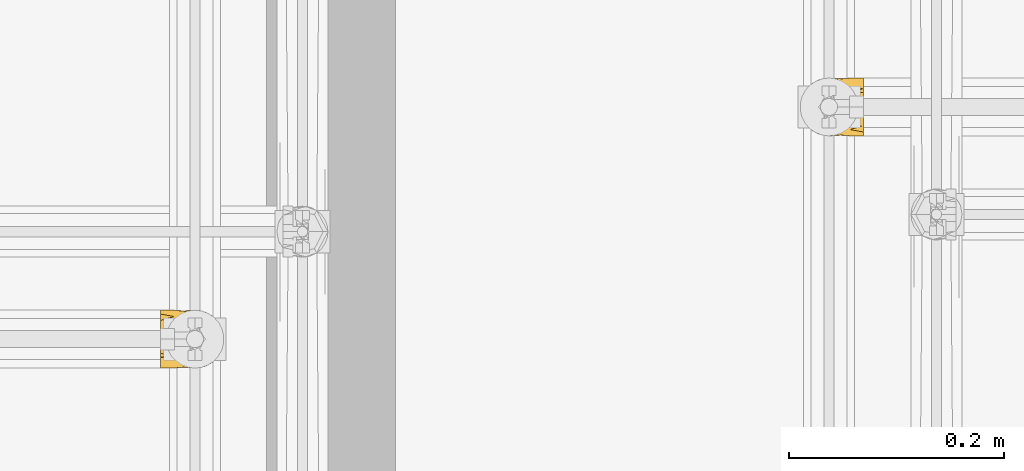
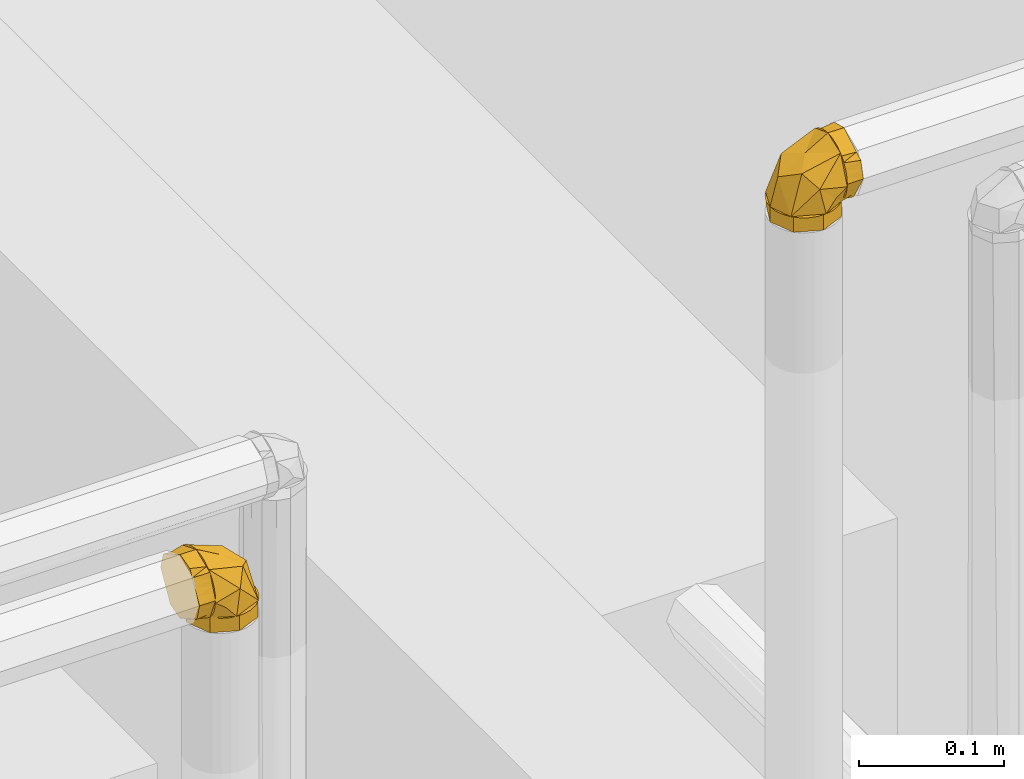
# One storey, part 328 of 652: 2 coverings.
"""IFC2X3 building model written with IfcOpenShell, lengths in millimetres."""

from ifc_helpers import new_model, entity, si_unit, converted_unit, direction, frame, origin, place, context, subcontext, project, spatial, face_set, surface_model, material, type_object, element, save


model = new_model("IFC2X3")

# Units and contexts
model_context = context("Model", 3, precision=0.01, world=frame((0.0, 0.0, 308426.39999999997)), true_north=direction((6.123233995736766e-17, 1.0)))
plan_context = context("Plan", 3, precision=0.01, world=frame((0.0, 0.0, 308426.39999999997)), true_north=direction((6.123233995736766e-17, 1.0)))
body_context = subcontext(model_context, "Body", "Model", "MODEL_VIEW")
ifc_project = project(units=[si_unit("LENGTHUNIT", "METRE", prefix="MILLI"), si_unit("AREAUNIT", "SQUARE_METRE"), si_unit("VOLUMEUNIT", "CUBIC_METRE"), converted_unit("PLANEANGLEUNIT", "DEGREE", entity("IfcPlaneAngleMeasure", 0.017453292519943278), si_unit("PLANEANGLEUNIT", "RADIAN"), dimensions=[0, 0, 0, 0, 0, 0, 0])], contexts=[model_context, plan_context])

# Site, building, storey
site_placement = place(None, origin())
site = spatial("IfcSite", under=ifc_project, at=site_placement, Name="Default", CompositionType="ELEMENT")
building_placement = place(site_placement, origin())
building = spatial("IfcBuilding", under=site, at=building_placement, CompositionType="ELEMENT")
storey_placement = place(building_placement, frame((0.0, 0.0, 1730.6999999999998)))
storey = spatial("IfcBuildingStorey", under=building, at=storey_placement, Name="EG_Produktion_FFB", CompositionType="ELEMENT", Elevation=1730.6999999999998)

# Coverings
ifc_material = material(Name="Dämmung - Armaflex-Schlauch")
covering_type = type_object("IfcCoveringType", Name="Rohrdämmung außen:Armaflex-Schlauch", PredefinedType="INSULATION")
covering_1_placement = place(storey_placement, frame((26716.26718915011, 55483.341818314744, 3328.532772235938)))
element("IfcCovering", 1, at=covering_1_placement, inside=storey, type_object=covering_type, material=ifc_material, Name="Rohrdämmung außen:Armaflex-Schlauch", ObjectType="Rohrdämmung außen:Armaflex-Schlauch", PredefinedType="INSULATION", context=body_context, shape_type="SurfaceModel", body=[
    surface_model("IfcFaceBasedSurfaceModel", [(12.766249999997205, 47.409122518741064, -47.750272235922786), (17.724287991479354, 51.38658262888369, -47.75027223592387), (23.476279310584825, 54.0915642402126, -47.75027223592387), (29.701958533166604, 55.37345654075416, -47.75027223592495), (36.05468574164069, 55.16088498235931, -47.75027223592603), (42.180747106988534, 53.465685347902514, -47.75027223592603), (47.739049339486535, 50.38224474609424, -47.75027223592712), (52.420111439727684, 46.08224622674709, -47.75027223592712), (55.96329630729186, 40.8051096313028, -47.7502722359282), (58.17132276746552, 34.844660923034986, -47.7502722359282), (58.92124999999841, 28.532772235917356, -47.7502722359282), (58.17132276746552, 22.220883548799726, -47.7502722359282), (55.96329630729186, 16.26043484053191, -47.7502722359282), (52.420111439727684, 10.983298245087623, -47.75027223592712), (47.739049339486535, 6.683299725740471, -47.75027223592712), (42.180747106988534, 3.599859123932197, -47.75027223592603), (36.05468574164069, 1.904659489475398, -47.75027223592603), (29.701958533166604, 1.6920879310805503, -47.75027223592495), (23.476279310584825, 2.973980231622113, -47.75027223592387), (17.724287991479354, 5.678961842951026, -47.75027223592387), (12.766249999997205, 9.65642195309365, -47.750272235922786), (12.766249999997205, 5.678961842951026, -42.79223424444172), (12.766249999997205, 2.973980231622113, -37.04024292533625), (12.766249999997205, 1.6920879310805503, -30.814563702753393), (12.766250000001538, 1.904659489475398, -24.46183649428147), (12.766250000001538, 3.599859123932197, -18.33577512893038), (12.766250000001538, 6.683299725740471, -12.777472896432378), (12.766250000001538, 10.983298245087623, -8.096410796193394), (12.766250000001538, 16.26043484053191, -4.553225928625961), (12.766250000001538, 22.220883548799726, -2.3451994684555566), (12.766250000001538, 28.532772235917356, -1.5952722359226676), (12.766250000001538, 34.844660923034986, -2.3451994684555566), (12.766250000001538, 40.8051096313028, -4.553225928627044), (12.766250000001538, 46.08224622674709, -8.096410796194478), (12.766250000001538, 50.38224474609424, -12.777472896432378), (12.766250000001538, 53.465685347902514, -18.33577512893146), (12.766250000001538, 55.16088498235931, -24.46183649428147), (12.766249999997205, 55.37345654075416, -30.814563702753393), (12.766249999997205, 54.0915642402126, -37.04024292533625), (12.766249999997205, 51.38658262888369, -42.7922342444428), (21.447282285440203, 54.789126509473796, -37.807297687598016), (52.7383955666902, 28.534915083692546, -24.672634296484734), (33.565147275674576, 53.463626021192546, -26.950983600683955), (41.060038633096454, 50.72890922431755, -47.75029542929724), (31.030418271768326, 28.534915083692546, -12.139678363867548), (41.84138628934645, 42.780557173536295, -17.332384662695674), (12.766416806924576, 50.72890922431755, -19.455510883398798), (41.84138628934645, 14.284622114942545, -17.332384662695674), (21.447282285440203, 2.276052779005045, -37.807297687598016), (33.565147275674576, 3.601553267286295, -26.950983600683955), (12.766416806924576, 6.336270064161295, -19.455510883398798), (41.060038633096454, 6.336270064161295, -47.75029542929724), (58.92125000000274, 28.532772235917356, -60.51652223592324), (56.94879722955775, 23.770850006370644, -60.51652223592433), (54.97634445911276, 19.008927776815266, -60.51652223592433), (53.00389168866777, 14.247005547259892, -60.51652223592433), (51.031438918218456, 9.485083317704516, -60.51652223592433), (46.26951668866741, 7.512630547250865, -60.51652223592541), (41.507594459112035, 5.54017777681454, -60.51652223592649), (36.74567222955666, 3.567725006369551, -60.51652223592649), (31.983750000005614, 1.5952722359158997, -60.516522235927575), (27.22182777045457, 3.567725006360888, -60.516522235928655), (22.459905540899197, 5.54017777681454, -60.516522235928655), (17.69798331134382, 7.512630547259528, -60.51652223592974), (12.936061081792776, 9.485083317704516, -60.51652223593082), (10.963608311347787, 14.247005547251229, -60.51652223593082), (8.991155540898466, 19.008927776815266, -60.51652223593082), (7.018702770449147, 23.770850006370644, -60.5165222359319), (5.046250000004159, 28.532772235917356, -60.5165222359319), (7.018702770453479, 33.29469446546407, -60.51652223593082), (8.991155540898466, 38.05661669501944, -60.51652223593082), (10.963608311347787, 42.81853892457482, -60.51652223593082), (12.936061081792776, 47.5804611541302, -60.51652223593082), (17.69798331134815, 49.552913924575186, -60.51652223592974), (22.459905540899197, 51.525366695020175, -60.516522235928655), (27.22182777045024, 53.497819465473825, -60.516522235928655), (31.983750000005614, 55.47027223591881, -60.516522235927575), (36.74567222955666, 53.497819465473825, -60.51652223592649), (41.507594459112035, 51.525366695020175, -60.51652223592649), (46.26951668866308, 49.552913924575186, -60.51652223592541), (51.031438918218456, 47.5804611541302, -60.51652223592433), (53.00389168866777, 42.81853892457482, -60.51652223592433), (54.97634445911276, 38.05661669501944, -60.51652223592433), (56.94879722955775, 33.29469446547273, -60.51652223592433), (58.92125000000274, 28.532772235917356, -47.75027223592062), (56.94879722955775, 33.29469446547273, -47.75027223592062), (54.97634445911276, 38.05661669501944, -47.75027223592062), (53.00389168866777, 42.81853892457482, -47.750272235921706), (51.031438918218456, 47.5804611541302, -47.750272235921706), (45.26304951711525, 49.96980627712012, -47.750272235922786), (39.49466011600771, 52.35915140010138, -47.75027223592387), (31.983750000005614, 55.47027223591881, -47.75027223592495), (27.22182777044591, 53.49781946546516, -47.75027223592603), (22.459905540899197, 51.525366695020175, -47.75027223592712), (17.69798331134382, 49.552913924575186, -47.7502722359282), (12.936061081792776, 47.5804611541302, -47.7502722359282), (10.546715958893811, 41.81207175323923, -47.7502722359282), (8.157370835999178, 36.04368235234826, -47.75027223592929), (5.046250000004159, 28.532772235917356, -47.75027223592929), (7.018702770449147, 23.770850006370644, -47.75027223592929), (8.991155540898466, 19.008927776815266, -47.75027223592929), (10.963608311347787, 14.247005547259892, -47.75027223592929), (12.936061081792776, 9.485083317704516, -47.7502722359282), (18.704450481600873, 7.095738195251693, -47.75027223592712), (24.472839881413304, 4.706393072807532, -47.75027223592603), (31.983750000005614, 1.5952722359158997, -47.75027223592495), (36.74567222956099, 3.567725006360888, -47.75027223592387), (41.507594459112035, 5.54017777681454, -47.750272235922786), (46.26951668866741, 7.512630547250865, -47.750272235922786), (51.031438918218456, 9.485083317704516, -47.750272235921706), (53.420784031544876, 15.253472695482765, -47.75027223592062), (55.81012914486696, 21.021862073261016, -47.75027223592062), (0.0, 28.532772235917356, -1.5952722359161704), (0.0, 34.36491206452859, -4.962459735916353), (0.0, 40.197051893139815, -8.329647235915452), (0.0, 46.02919172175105, -11.696834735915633), (0.0, 51.86133155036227, -15.064022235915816), (0.0, 53.66580189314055, -21.79839723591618), (0.0, 55.47027223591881, -28.532772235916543), (0.0, 52.10308473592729, -34.36491206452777), (0.0, 48.73589723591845, -40.197051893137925), (0.0, 45.368709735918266, -46.02919172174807), (0.0, 42.00152223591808, -51.861331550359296), (0.0, 35.26714723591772, -53.66580189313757), (0.0, 28.532772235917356, -55.470272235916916), (0.0, 22.700632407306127, -52.10308473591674), (0.0, 16.868492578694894, -48.73589723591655), (0.0, 11.036352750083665, -45.36870973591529), (0.0, 5.204212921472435, -42.00152223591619), (0.0, 3.3997425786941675, -35.26714723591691), (0.0, 1.5952722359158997, -28.532772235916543), (0.0, 4.962459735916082, -22.700632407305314), (0.0, 8.329647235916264, -16.868492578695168), (0.0, 11.696834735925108, -11.036352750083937), (0.0, 15.064022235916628, -5.204212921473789), (0.0, 21.79839723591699, -3.399742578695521), (12.766249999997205, 28.532772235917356, -1.5952722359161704), (12.766249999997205, 23.77085000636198, -3.5677250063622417), (12.766249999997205, 19.008927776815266, -5.540177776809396), (12.766249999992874, 14.247005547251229, -7.51263054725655), (12.766249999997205, 9.485083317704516, -9.485083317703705), (12.766249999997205, 7.512630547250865, -14.247005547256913), (12.766249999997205, 5.54017777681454, -19.008927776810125), (12.766249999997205, 3.567725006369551, -23.770850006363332), (12.766249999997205, 1.5952722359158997, -28.532772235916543), (12.766249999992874, 3.567725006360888, -33.29469446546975), (12.766249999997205, 5.54017777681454, -38.05661669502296), (12.766249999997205, 7.512630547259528, -42.818538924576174), (12.766249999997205, 9.485083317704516, -47.58046115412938), (12.766249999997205, 14.247005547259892, -49.552913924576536), (12.766249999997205, 19.008927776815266, -51.52536669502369), (12.766249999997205, 23.770850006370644, -53.49781946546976), (12.766249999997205, 28.532772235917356, -55.470272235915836), (12.766249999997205, 33.29469446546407, -53.49781946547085), (12.766249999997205, 38.05661669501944, -51.52536669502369), (12.766250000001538, 42.818538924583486, -49.552913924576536), (12.766249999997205, 47.5804611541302, -47.58046115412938), (12.766249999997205, 49.552913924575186, -42.818538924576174), (12.766249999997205, 51.525366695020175, -38.05661669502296), (12.766249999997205, 53.497819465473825, -33.29469446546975), (12.766249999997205, 55.47027223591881, -28.532772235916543), (12.766249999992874, 53.49781946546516, -23.770850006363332), (12.766249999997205, 51.525366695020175, -19.008927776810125), (12.766249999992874, 49.552913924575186, -14.247005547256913), (12.766249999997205, 47.5804611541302, -9.485083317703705), (12.766249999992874, 42.818538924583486, -7.51263054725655), (12.766249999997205, 38.05661669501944, -5.540177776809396), (12.766249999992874, 33.29469446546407, -3.567725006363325)], [face_set([[[0, 1, 2, 3, 4, 5, 6, 7, 8, 9, 10, 11, 12, 13, 14, 15, 16, 17, 18, 19]], [[20, 21, 22, 23, 24, 25, 26, 27, 28, 29, 30, 31, 32, 33, 34, 35, 36, 37, 38, 39]], [[0, 40, 3]], [[10, 7, 41]], [[37, 42, 40]], [[42, 7, 43]], [[37, 40, 0]], [[3, 40, 42]], [[44, 41, 45]], [[7, 45, 41]], [[33, 30, 44]], [[44, 45, 33]], [[42, 33, 45]], [[42, 37, 46, 33]], [[7, 42, 45]], [[43, 3, 42]], [[13, 10, 41]], [[27, 47, 44]], [[44, 30, 27]], [[48, 49, 23]], [[49, 27, 50, 23]], [[17, 49, 48]], [[44, 47, 41]], [[20, 48, 23]], [[47, 49, 13]], [[17, 48, 20]], [[41, 47, 13]], [[49, 17, 51]], [[27, 49, 47]], [[51, 13, 49]]]), face_set([[[52, 53, 54, 55, 56, 57, 58, 59, 60, 61, 62, 63, 64, 65, 66, 67, 68, 69, 70, 71, 72, 73, 74, 75, 76, 77, 78, 79, 80, 81, 82, 83]], [[84, 85, 86, 87, 88, 89, 90, 91, 92, 93, 94, 95, 96, 97, 98, 99, 100, 101, 102, 103, 104, 105, 106, 107, 108, 109, 110, 111]], [[111, 110, 109, 56, 55, 54, 53, 52, 84]], [[56, 109, 108, 107, 106, 105, 60, 59, 58, 57]], [[104, 103, 102, 64, 63, 62, 61, 60, 105]], [[64, 102, 101, 100, 99, 98, 68, 67, 66, 65]], [[97, 96, 95, 72, 71, 70, 69, 68, 98]], [[72, 95, 94, 93, 92, 91, 76, 75, 74, 73]], [[90, 89, 88, 80, 79, 78, 77, 76, 91]], [[80, 88, 87, 86, 85, 84, 52, 83, 82, 81]]]), face_set([[[112, 113, 114, 115, 116, 117, 118, 119, 120, 121, 122, 123, 124, 125, 126, 127, 128, 129, 130, 131, 132, 133, 134, 135]], [[136, 137, 138, 139, 140, 141, 142, 143, 144, 145, 146, 147, 148, 149, 150, 151, 152, 153, 154, 155, 156, 157, 158, 159, 160, 161, 162, 163, 164, 165, 166, 167]], [[155, 121, 156]], [[118, 159, 119]], [[159, 158, 119]], [[123, 154, 153]], [[153, 152, 124]], [[121, 155, 122]], [[120, 158, 157]], [[118, 160, 159]], [[158, 120, 119]], [[124, 123, 153]], [[157, 156, 121]], [[155, 154, 122]], [[123, 122, 154]], [[120, 157, 121]], [[163, 115, 164]], [[112, 167, 113]], [[167, 166, 113]], [[117, 162, 161]], [[161, 160, 118]], [[115, 163, 116]], [[114, 166, 165]], [[112, 136, 167]], [[166, 114, 113]], [[118, 117, 161]], [[165, 164, 115]], [[163, 162, 116]], [[117, 116, 162]], [[114, 165, 115]], [[139, 133, 140]], [[130, 143, 131]], [[143, 142, 131]], [[135, 138, 137]], [[137, 136, 112]], [[133, 139, 134]], [[132, 142, 141]], [[130, 144, 143]], [[142, 132, 131]], [[112, 135, 137]], [[141, 140, 133]], [[139, 138, 134]], [[135, 134, 138]], [[132, 141, 133]], [[147, 127, 148]], [[124, 151, 125]], [[151, 150, 125]], [[129, 146, 145]], [[145, 144, 130]], [[127, 147, 128]], [[126, 150, 149]], [[124, 152, 151]], [[150, 126, 125]], [[130, 129, 145]], [[149, 148, 127]], [[147, 146, 128]], [[129, 128, 146]], [[126, 149, 127]]])]),
])
covering_2_placement = place(storey_placement, frame((27309.718166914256, 55699.373068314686, 3268.016249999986)))
element("IfcCovering", 2, at=covering_2_placement, inside=storey, type_object=covering_type, material=ifc_material, Name="Rohrdämmung außen:Armaflex-Schlauch", ObjectType="Rohrdämmung außen:Armaflex-Schlauch", PredefinedType="INSULATION", context=body_context, shape_type="SurfaceModel", body=[
    surface_model("IfcFaceBasedSurfaceModel", [(47.75027223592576, 9.65642195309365, 12.766250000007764), (42.79223424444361, 5.678961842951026, 12.76625000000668), (37.04024292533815, 2.973980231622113, 12.76625000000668), (30.81456370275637, 1.6920879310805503, 12.766250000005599), (24.461836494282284, 1.904659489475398, 12.766250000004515), (18.33577512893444, 3.599859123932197, 12.766250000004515), (12.77747289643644, 6.683299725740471, 12.766250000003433), (8.09641079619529, 10.983298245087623, 12.766250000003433), (4.553225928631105, 16.26043484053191, 12.76625000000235), (2.3451994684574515, 22.220883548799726, 12.76625000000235), (1.5952722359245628, 28.532772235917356, 12.76625000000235), (2.3451994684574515, 34.844660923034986, 12.76625000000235), (4.553225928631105, 40.8051096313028, 12.76625000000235), (8.09641079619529, 46.08224622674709, 12.766250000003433), (12.77747289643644, 50.38224474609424, 12.766250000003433), (18.33577512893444, 53.465685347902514, 12.766250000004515), (24.461836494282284, 55.16088498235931, 12.766250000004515), (30.81456370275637, 55.37345654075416, 12.766250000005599), (37.04024292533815, 54.0915642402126, 12.76625000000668), (42.79223424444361, 51.38658262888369, 12.76625000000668), (47.75027223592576, 47.409122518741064, 12.766250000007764), (47.75027223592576, 5.678961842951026, 17.72428799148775), (47.75027223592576, 2.973980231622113, 23.4762793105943), (47.75027223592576, 1.6920879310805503, 29.70195853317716), (47.750272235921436, 1.904659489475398, 36.05468574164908), (47.750272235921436, 3.599859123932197, 42.18074710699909), (47.750272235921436, 6.683299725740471, 47.73904933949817), (47.750272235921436, 10.983298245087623, 52.420111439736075), (47.750272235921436, 16.26043484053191, 55.96329630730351), (47.750272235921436, 22.220883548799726, 58.171322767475), (47.750272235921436, 28.532772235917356, 58.92125000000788), (47.750272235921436, 34.844660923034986, 58.171322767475), (47.750272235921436, 40.8051096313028, 55.96329630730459), (47.750272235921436, 46.08224622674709, 52.420111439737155), (47.750272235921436, 50.38224474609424, 47.73904933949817), (47.750272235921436, 53.465685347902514, 42.18074710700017), (47.750272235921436, 55.16088498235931, 36.05468574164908), (47.75027223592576, 55.37345654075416, 29.70195853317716), (47.75027223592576, 54.0915642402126, 23.4762793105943), (47.75027223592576, 51.38658262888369, 17.72428799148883), (39.070633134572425, 2.2781279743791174, 22.709224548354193), (7.779519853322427, 28.532339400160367, 35.84388793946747), (26.950442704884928, 3.5989775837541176, 33.565538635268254), (19.455551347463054, 6.338345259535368, 12.766226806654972), (29.4874971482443, 28.532339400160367, 48.37684387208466), (18.67420369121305, 14.286697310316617, 43.184137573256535), (47.74917317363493, 6.338345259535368, 41.061011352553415), (18.67420369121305, 42.777981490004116, 43.184137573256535), (39.070633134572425, 54.79120170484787, 22.709224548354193), (26.950442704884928, 53.46570121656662, 33.565538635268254), (47.74917317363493, 50.72633354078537, 41.061011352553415), (19.455551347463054, 50.72633354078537, 12.766226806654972), (1.5952722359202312, 28.532772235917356, 0.0), (3.567725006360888, 33.29469446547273, 0.0), (5.540177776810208, 38.05661669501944, 0.0), (7.512630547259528, 42.81853892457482, 0.0), (9.485083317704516, 47.5804611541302, 0.0), (14.247005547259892, 49.552913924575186, 0.0), (19.008927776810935, 51.525366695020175, 0.0), (23.77085000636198, 53.497819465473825, 0.0), (28.532772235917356, 55.47027223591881, 0.0), (33.2946944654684, 53.49781946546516, 0.0), (38.05661669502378, 51.525366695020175, 0.0), (42.81853892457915, 49.552913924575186, 0.0), (47.5804611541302, 47.5804611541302, 0.0), (49.552913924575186, 42.81853892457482, 0.0), (51.5253666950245, 38.05661669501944, 0.0), (53.497819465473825, 33.29469446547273, 0.0), (55.47027223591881, 28.532772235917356, 0.0), (53.49781946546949, 23.77085000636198, 0.0), (51.5253666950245, 19.008927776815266, 0.0), (49.552913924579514, 14.247005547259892, 0.0), (47.5804611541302, 9.485083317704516, 0.0), (42.81853892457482, 7.512630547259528, 0.0), (38.05661669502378, 5.54017777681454, 0.0), (33.29469446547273, 3.567725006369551, 0.0), (28.532772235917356, 1.5952722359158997, 0.0), (23.77085000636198, 3.567725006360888, 0.0), (19.008927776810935, 5.54017777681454, 0.0), (14.24700554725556, 7.512630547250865, 0.0), (9.485083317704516, 9.485083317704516, 0.0), (7.512630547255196, 14.247005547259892, 0.0), (5.540177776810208, 19.008927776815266, 0.0), (3.567725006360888, 23.770850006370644, 0.0), (1.5952722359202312, 28.532772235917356, 12.76625000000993), (3.567725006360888, 23.77085000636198, 12.76625000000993), (5.540177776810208, 19.008927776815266, 12.76625000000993), (7.512630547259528, 14.247005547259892, 12.766250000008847), (9.485083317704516, 9.485083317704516, 12.766250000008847), (15.253472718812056, 7.095738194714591, 12.766250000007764), (21.02186211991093, 4.706393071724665, 12.76625000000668), (28.532772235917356, 1.5952722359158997, 12.766250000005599), (33.29469446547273, 3.567725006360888, 12.766250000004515), (38.056616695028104, 5.54017777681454, 12.766250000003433), (42.81853892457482, 7.512630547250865, 12.76625000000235), (47.5804611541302, 9.485083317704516, 12.76625000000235), (49.96980627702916, 15.253472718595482, 12.76625000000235), (52.35915139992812, 21.021862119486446, 12.766250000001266), (55.47027223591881, 28.532772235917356, 12.766250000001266), (53.497819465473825, 33.29469446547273, 12.766250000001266), (51.5253666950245, 38.05661669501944, 12.766250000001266), (49.552913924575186, 42.81853892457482, 12.766250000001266), (47.5804611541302, 47.5804611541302, 12.76625000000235), (41.8120717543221, 49.96980627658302, 12.766250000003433), (36.043682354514, 52.359151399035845, 12.766250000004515), (28.532772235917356, 55.47027223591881, 12.766250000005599), (23.77085000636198, 53.497819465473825, 12.76625000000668), (19.008927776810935, 51.525366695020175, 12.766250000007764), (14.247005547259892, 49.552913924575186, 12.766250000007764), (9.485083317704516, 47.5804611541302, 12.766250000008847), (7.0957382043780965, 41.81207177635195, 12.76625000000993), (4.706393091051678, 36.0436823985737, 12.76625000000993), (60.51652223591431, 28.532772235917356, 58.92125000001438), (60.51652223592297, 22.700632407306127, 55.5540625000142), (60.51652223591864, 16.868492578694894, 52.1868750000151), (60.51652223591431, 11.036352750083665, 48.819687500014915), (60.51652223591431, 5.204212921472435, 45.45250000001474), (60.51652223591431, 3.3997425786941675, 38.718125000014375), (60.51652223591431, 1.5952722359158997, 31.98375000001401), (60.51652223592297, 4.962459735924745, 26.151610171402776), (60.51652223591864, 8.329647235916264, 20.31947034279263), (60.51652223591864, 11.696834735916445, 14.487330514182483), (60.51652223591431, 15.064022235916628, 8.655190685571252), (60.51652223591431, 21.79839723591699, 6.850720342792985), (60.51652223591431, 28.532772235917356, 5.046250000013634), (60.51652223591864, 34.36491206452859, 8.413437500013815), (60.51652223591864, 40.197051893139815, 11.780625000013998), (60.51652223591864, 46.02919172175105, 15.147812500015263), (60.51652223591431, 51.86133155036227, 18.51500000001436), (60.51652223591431, 53.66580189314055, 25.249375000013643), (60.51652223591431, 55.47027223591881, 31.98375000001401), (60.51652223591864, 52.10308473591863, 37.81588982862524), (60.51652223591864, 48.73589723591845, 43.648029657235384), (60.51652223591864, 45.36870973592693, 49.480169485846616), (60.51652223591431, 42.00152223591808, 55.31230931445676), (60.51652223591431, 35.26714723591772, 57.11677965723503), (47.75027223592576, 28.532772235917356, 58.92125000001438), (47.75027223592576, 33.29469446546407, 56.94879722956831), (47.75027223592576, 38.05661669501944, 54.97634445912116), (47.75027223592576, 42.81853892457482, 53.003891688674), (47.75027223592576, 47.5804611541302, 51.03143891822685), (47.75027223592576, 49.552913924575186, 46.26951668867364), (47.75027223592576, 51.525366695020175, 41.507594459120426), (47.75027223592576, 53.497819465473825, 36.74567222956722), (47.75027223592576, 55.47027223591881, 31.98375000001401), (47.75027223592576, 53.49781946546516, 27.2218277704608), (47.75027223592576, 51.525366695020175, 22.459905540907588), (47.75027223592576, 49.55291392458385, 17.697983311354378), (47.75027223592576, 47.5804611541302, 12.936061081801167), (47.75027223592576, 42.81853892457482, 10.963608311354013), (47.75027223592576, 38.05661669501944, 8.99115554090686), (47.75027223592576, 33.29469446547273, 7.018702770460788), (47.75027223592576, 28.532772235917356, 5.046250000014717), (47.75027223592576, 23.77085000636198, 7.018702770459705), (47.75027223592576, 19.008927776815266, 8.99115554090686), (47.75027223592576, 14.247005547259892, 10.963608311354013), (47.75027223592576, 9.485083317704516, 12.936061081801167), (47.75027223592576, 7.512630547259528, 17.697983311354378), (47.75027223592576, 5.54017777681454, 22.459905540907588), (47.7502722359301, 3.567725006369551, 27.2218277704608), (47.75027223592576, 1.5952722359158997, 31.98375000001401), (47.75027223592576, 3.567725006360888, 36.74567222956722), (47.75027223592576, 5.54017777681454, 41.507594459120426), (47.75027223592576, 7.512630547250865, 46.26951668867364), (47.75027223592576, 9.485083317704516, 51.03143891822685), (47.75027223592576, 14.247005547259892, 53.003891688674), (47.75027223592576, 19.008927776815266, 54.97634445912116), (47.75027223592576, 23.770850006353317, 56.94879722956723)], [face_set([[[0, 1, 2, 3, 4, 5, 6, 7, 8, 9, 10, 11, 12, 13, 14, 15, 16, 17, 18, 19]], [[20, 21, 22, 23, 24, 25, 26, 27, 28, 29, 30, 31, 32, 33, 34, 35, 36, 37, 38, 39]], [[0, 40, 3]], [[10, 7, 41]], [[23, 42, 40]], [[42, 7, 43, 3]], [[23, 40, 0]], [[3, 40, 42]], [[44, 41, 45]], [[7, 45, 41]], [[27, 30, 44]], [[44, 45, 27]], [[42, 27, 45]], [[42, 23, 46, 27]], [[7, 42, 45]], [[13, 10, 41]], [[33, 47, 44]], [[44, 30, 33]], [[48, 49, 37]], [[49, 33, 50, 37]], [[17, 49, 48]], [[44, 47, 41]], [[20, 48, 37]], [[47, 49, 13]], [[17, 48, 20]], [[41, 47, 13]], [[49, 17, 51, 13]], [[33, 49, 47]]]), face_set([[[52, 53, 54, 55, 56, 57, 58, 59, 60, 61, 62, 63, 64, 65, 66, 67, 68, 69, 70, 71, 72, 73, 74, 75, 76, 77, 78, 79, 80, 81, 82, 83]], [[84, 85, 86, 87, 88, 89, 90, 91, 92, 93, 94, 95, 96, 97, 98, 99, 100, 101, 102, 103, 104, 105, 106, 107, 108, 109, 110, 111]], [[111, 110, 109, 56, 55, 54, 53, 52, 84]], [[56, 109, 108, 107, 106, 105, 60, 59, 58, 57]], [[104, 103, 102, 64, 63, 62, 61, 60, 105]], [[64, 102, 101, 100, 99, 98, 68, 67, 66, 65]], [[97, 96, 95, 72, 71, 70, 69, 68, 98]], [[72, 95, 94, 93, 92, 91, 76, 75, 74, 73]], [[90, 89, 88, 80, 79, 78, 77, 76, 91]], [[80, 88, 87, 86, 85, 84, 52, 83, 82, 81]]]), face_set([[[112, 113, 114, 115, 116, 117, 118, 119, 120, 121, 122, 123, 124, 125, 126, 127, 128, 129, 130, 131, 132, 133, 134, 135]], [[136, 137, 138, 139, 140, 141, 142, 143, 144, 145, 146, 147, 148, 149, 150, 151, 152, 153, 154, 155, 156, 157, 158, 159, 160, 161, 162, 163, 164, 165, 166, 167]], [[155, 121, 156]], [[118, 159, 119]], [[159, 158, 119]], [[123, 154, 153]], [[153, 152, 124]], [[121, 155, 122]], [[120, 158, 157]], [[118, 160, 159]], [[158, 120, 119]], [[124, 123, 153]], [[157, 156, 121]], [[155, 154, 122]], [[123, 122, 154]], [[120, 157, 121]], [[163, 115, 164]], [[112, 167, 113]], [[167, 166, 113]], [[117, 162, 161]], [[161, 160, 118]], [[115, 163, 116]], [[114, 166, 165]], [[112, 136, 167]], [[166, 114, 113]], [[118, 117, 161]], [[165, 164, 115]], [[163, 162, 116]], [[117, 116, 162]], [[114, 165, 115]], [[139, 133, 140]], [[130, 143, 131]], [[143, 142, 131]], [[135, 138, 137]], [[137, 136, 112]], [[133, 139, 134]], [[132, 142, 141]], [[130, 144, 143]], [[142, 132, 131]], [[112, 135, 137]], [[141, 140, 133]], [[139, 138, 134]], [[135, 134, 138]], [[132, 141, 133]], [[147, 127, 148]], [[124, 151, 125]], [[151, 150, 125]], [[129, 146, 145]], [[145, 144, 130]], [[127, 147, 128]], [[126, 150, 149]], [[124, 152, 151]], [[150, 126, 125]], [[130, 129, 145]], [[149, 148, 127]], [[147, 146, 128]], [[129, 128, 146]], [[126, 149, 127]]])]),
])

save(model, "model.ifc")
